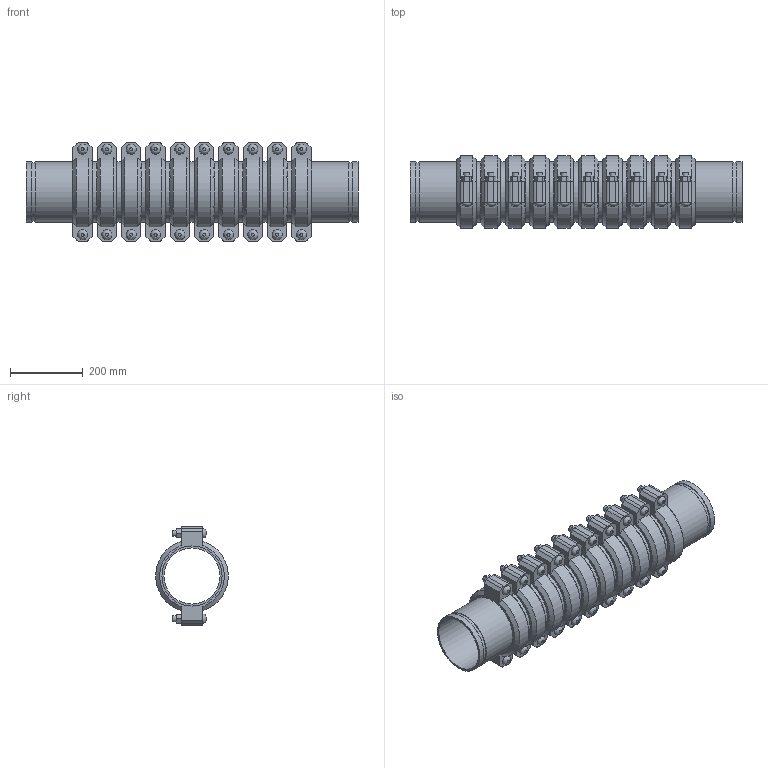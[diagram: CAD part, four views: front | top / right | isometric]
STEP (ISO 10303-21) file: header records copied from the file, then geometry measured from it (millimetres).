
FILE_DESCRIPTION(/* description */ ('VIC EXPANSION JOINT 10 COUPLINGS EXPANDED STYLE 155 (OGS)','CAx-IF Rec.Pracs.---Representation and Presentation of Product Manufacturing Information (PMI)---4.0---2014-10-13'),/* implementation_level */ '2;1');
FILE_NAME(/* name */ 'C:\Users\kkamble\AppData\Roaming\Autodesk\ApplicationPlugins\Victaulic.Temp\A992\Victaulic_IPS_Expansion Joint_Expanded_10 Couplings_Style 155 (OGS)_06.0 (165.1) (150).stp',/* time_stamp */ '2021-06-26T23:50:10+02:00',/* author */ ('kkamble'),/* organization */ ('Victaulic'),/* preprocessor_version */ 'ST-DEVELOPER v17.2',/* originating_system */ 'Autodesk Inventor 2019',/* authorisation */ '');
FILE_SCHEMA (('AP242_MANAGED_MODEL_BASED_3D_ENGINEERING_MIM_LF { 1 0 10303 442 1 1 4 }'));
Length unit declared in the file: inch
Products named in the file (4): 155-06.0 (165.1); Nipple-06.0 (165.1); Nipple-06.0 (165.1)_1; 075-06.0 (165.1)
Assembly tree (21 placements, depth 2):
  155-06.0 (165.1)
    Nipple-06.0 (165.1)  x2
    Nipple-06.0 (165.1)_1  x9
    075-06.0 (165.1)  x10
Bounding box: 911.61 x 198.42 x 270.76 mm (x, y, z)
Volume: 9280663.1 mm3; surface area: 2074933.5 mm2
Topology: 21 solids, 41 shells, 702 faces, 1660 edges, 1164 vertices
Faces by surface type: plane 426, cylinder 216, cone 40, bspline 20
Full cylindrical faces by diameter (mm): 15.875 x40, 17.424 x20, 153.975 x11, 158.75 x10, 160.782 x22, 165.1 x53
Entity records: 2881 total; most frequent: CARTESIAN_POINT 505, DIRECTION 485, ORIENTED_EDGE 386, AXIS2_PLACEMENT_3D 196, EDGE_CURVE 193, VERTEX_POINT 138, EDGE_LOOP 107, LINE 93
